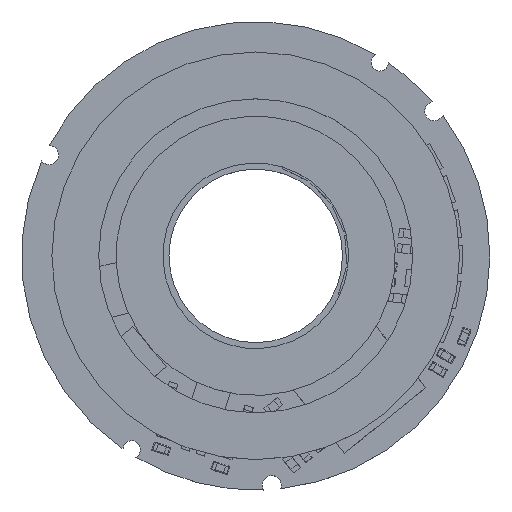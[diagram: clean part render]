
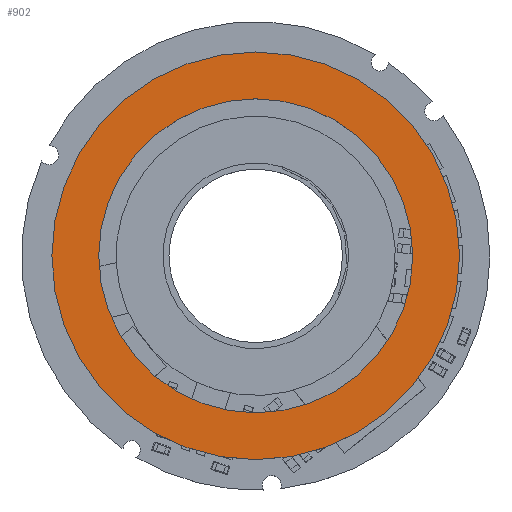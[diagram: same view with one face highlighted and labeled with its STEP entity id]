
A CAD part, top view. The second image highlights one B-rep face of the part: STEP entity #902.
In plain terms, the highlighted planar face has unit normal (0, 0, 1).
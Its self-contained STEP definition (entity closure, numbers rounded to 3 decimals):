
#813=CARTESIAN_POINT('',(0.,0.,12.1));
#814=DIRECTION('',(0.,0.,1.));
#815=DIRECTION('',(1.,0.,0.));
#816=AXIS2_PLACEMENT_3D('',#813,#814,#815);
#818=CARTESIAN_POINT('',(0.,0.,12.1));
#819=DIRECTION('',(0.,0.,1.));
#820=DIRECTION('',(-1.,0.,0.));
#821=AXIS2_PLACEMENT_3D('',#818,#819,#820);
#823=CARTESIAN_POINT('',(0.,0.,12.1));
#824=DIRECTION('',(0.,0.,-1.));
#825=DIRECTION('',(1.,0.,0.));
#826=AXIS2_PLACEMENT_3D('',#823,#824,#825);
#828=CARTESIAN_POINT('',(0.,0.,12.1));
#829=DIRECTION('',(0.,0.,-1.));
#830=DIRECTION('',(-1.,0.,0.));
#831=AXIS2_PLACEMENT_3D('',#828,#829,#830);
#869=CARTESIAN_POINT('',(11.75,0.,12.1));
#870=CARTESIAN_POINT('',(-11.75,0.,12.1));
#871=VERTEX_POINT('',#869);
#872=VERTEX_POINT('',#870);
#873=CARTESIAN_POINT('',(9.05,0.,12.1));
#874=CARTESIAN_POINT('',(-9.05,0.,12.1));
#875=VERTEX_POINT('',#873);
#876=VERTEX_POINT('',#874);
#885=CARTESIAN_POINT('',(0.,0.,12.1));
#886=DIRECTION('',(0.,0.,1.));
#887=DIRECTION('',(1.,0.,0.));
#888=AXIS2_PLACEMENT_3D('',#885,#886,#887);
#889=PLANE('',#888);
#891=ORIENTED_EDGE('',*,*,#890,.F.);
#893=ORIENTED_EDGE('',*,*,#892,.F.);
#894=EDGE_LOOP('',(#891,#893));
#895=FACE_OUTER_BOUND('',#894,.F.);
#897=ORIENTED_EDGE('',*,*,#896,.F.);
#899=ORIENTED_EDGE('',*,*,#898,.F.);
#900=EDGE_LOOP('',(#897,#899));
#901=FACE_BOUND('',#900,.F.);
#902=ADVANCED_FACE('',(#895,#901),#889,.T.);
#817=CIRCLE('',#816,11.75);
#822=CIRCLE('',#821,11.75);
#827=CIRCLE('',#826,9.05);
#832=CIRCLE('',#831,9.05);
#890=EDGE_CURVE('',#871,#872,#817,.T.);
#892=EDGE_CURVE('',#872,#871,#822,.T.);
#896=EDGE_CURVE('',#875,#876,#827,.T.);
#898=EDGE_CURVE('',#876,#875,#832,.T.);
